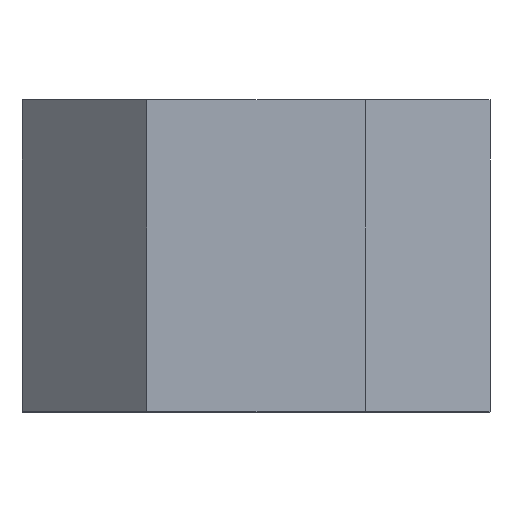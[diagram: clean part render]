
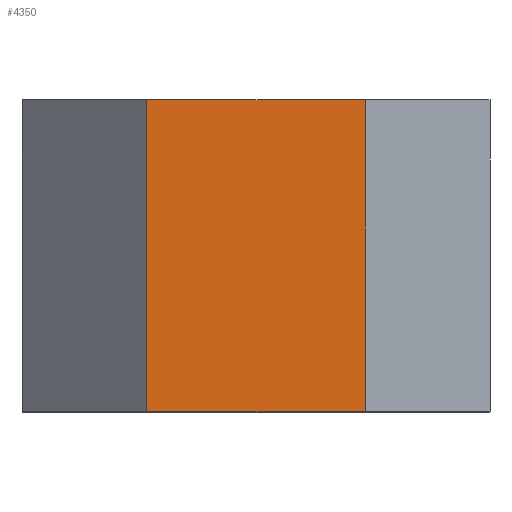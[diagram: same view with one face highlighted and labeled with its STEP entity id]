
A CAD part, top view. The second image highlights one B-rep face of the part: STEP entity #4350.
In plain terms, the highlighted planar face has unit normal (0, 0, 1).
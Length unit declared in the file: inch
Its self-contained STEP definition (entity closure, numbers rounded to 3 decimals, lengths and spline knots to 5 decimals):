
#93 = EDGE_LOOP ( 'NONE', ( #6626, #6627, #6628, #6629 ) ) ;
#1848 = VERTEX_POINT ( 'NONE', #5887 ) ;
#1860 = VERTEX_POINT ( 'NONE', #5874 ) ;
#1934 = VERTEX_POINT ( 'NONE', #5790 ) ;
#1972 = VERTEX_POINT ( 'NONE', #5511 ) ;
#2017 = EDGE_CURVE ( 'NONE', #1934, #1972, #6058, .T. ) ;
#2394 = DIRECTION ( 'NONE',  ( 1., 0., 0. ) ) ;
#2395 = CARTESIAN_POINT ( 'NONE',  ( 0., 0., 0.75 ) ) ;
#2399 = DIRECTION ( 'NONE',  ( 0., 1., 0. ) ) ;
#2400 = CARTESIAN_POINT ( 'NONE',  ( 0.55, 0.5, 0.75 ) ) ;
#2401 = DIRECTION ( 'NONE',  ( 0., -1., 0. ) ) ;
#2402 = CARTESIAN_POINT ( 'NONE',  ( 0.2, 0.5, 0.75 ) ) ;
#3448 = DIRECTION ( 'NONE',  ( -1., 0., 0. ) ) ;
#3449 = DIRECTION ( 'NONE',  ( 0., 0., -1. ) ) ;
#3450 = CARTESIAN_POINT ( 'NONE',  ( 0., 0.5, 0.75 ) ) ;
#3451 = PLANE ( 'NONE',  #6542 ) ;
#4072 = LINE ( 'NONE', #2402, #4073 ) ;
#4073 = VECTOR ( 'NONE', #2401, 39.37008 ) ;
#4074 = LINE ( 'NONE', #2400, #4075 ) ;
#4075 = VECTOR ( 'NONE', #2399, 39.37008 ) ;
#4076 = LINE ( 'NONE', #2395, #4078 ) ;
#4078 = VECTOR ( 'NONE', #2394, 39.37008 ) ;
#4350 = ADVANCED_FACE ( 'NONE', ( #4412 ), #3451, .F. ) ;
#4412 = FACE_OUTER_BOUND ( 'NONE', #93, .T. ) ;
#5511 = CARTESIAN_POINT ( 'NONE',  ( 0.55, 0.5, 0.75 ) ) ;
#5676 = DIRECTION ( 'NONE',  ( 1., 0., 0. ) ) ;
#5678 = CARTESIAN_POINT ( 'NONE',  ( 0., 0.5, 0.75 ) ) ;
#5790 = CARTESIAN_POINT ( 'NONE',  ( 0.2, 0.5, 0.75 ) ) ;
#5874 = CARTESIAN_POINT ( 'NONE',  ( 0.2, 0., 0.75 ) ) ;
#5887 = CARTESIAN_POINT ( 'NONE',  ( 0.55, 0., 0.75 ) ) ;
#6058 = LINE ( 'NONE', #5678, #6060 ) ;
#6060 = VECTOR ( 'NONE', #5676, 39.37008 ) ;
#6542 = AXIS2_PLACEMENT_3D ( 'NONE', #3450, #3449, #3448 ) ;
#6626 = ORIENTED_EDGE ( 'NONE', *, *, #6894, .T. ) ;
#6627 = ORIENTED_EDGE ( 'NONE', *, *, #6892, .T. ) ;
#6628 = ORIENTED_EDGE ( 'NONE', *, *, #2017, .F. ) ;
#6629 = ORIENTED_EDGE ( 'NONE', *, *, #6891, .T. ) ;
#6891 = EDGE_CURVE ( 'NONE', #1934, #1860, #4072, .T. ) ;
#6892 = EDGE_CURVE ( 'NONE', #1848, #1972, #4074, .T. ) ;
#6894 = EDGE_CURVE ( 'NONE', #1860, #1848, #4076, .T. ) ;
